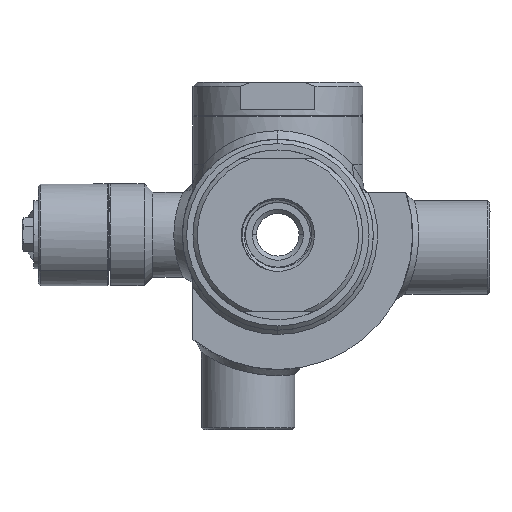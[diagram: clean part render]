
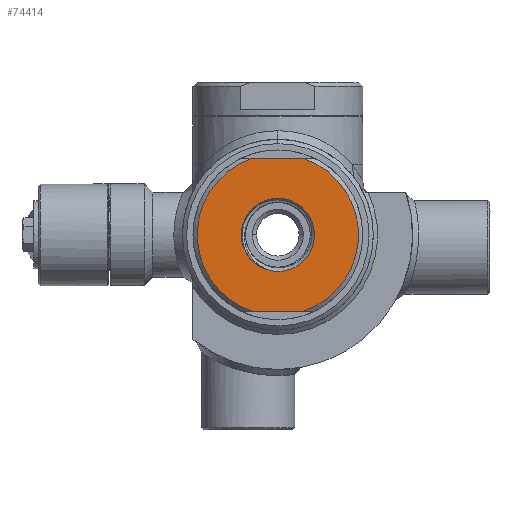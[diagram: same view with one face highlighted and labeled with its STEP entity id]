
A CAD part, left-side view. The second image highlights one B-rep face of the part: STEP entity #74414.
In plain terms, the highlighted planar face has unit normal (-1, 0, 0).
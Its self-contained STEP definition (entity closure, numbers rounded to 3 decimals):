
#13257=CARTESIAN_POINT('',(-36.,0.,0.));
#13258=DIRECTION('',(1.,0.,0.));
#13259=DIRECTION('',(0.,-1.,0.));
#13260=AXIS2_PLACEMENT_3D('',#13257,#13258,#13259);
#13556=CARTESIAN_POINT('',(-36.,0.,0.));
#13557=DIRECTION('',(-1.,0.,0.));
#13558=DIRECTION('',(0.,-1.,0.));
#13559=AXIS2_PLACEMENT_3D('',#13556,#13557,#13558);
#13564=DIRECTION('',(0.,1.,0.));
#13565=VECTOR('',#13564,12.166);
#13566=CARTESIAN_POINT('',(-36.,-6.083,
18.));
#13567=LINE('',#13566,#13565);
#13571=DIRECTION('',(0.,1.,0.));
#13572=VECTOR('',#13571,12.166);
#13573=CARTESIAN_POINT('',(-36.,-6.083,
-18.));
#13574=LINE('',#13573,#13572);
#13578=CARTESIAN_POINT('',(-36.,0.,0.));
#13579=DIRECTION('',(-1.,0.,0.));
#13580=DIRECTION('',(0.,0.32,0.947));
#13581=AXIS2_PLACEMENT_3D('',#13578,#13579,#13580);
#13586=CARTESIAN_POINT('',(-36.,6.083,
-18.));
#13603=CARTESIAN_POINT('',(-36.,-6.083,
-18.));
#13622=CARTESIAN_POINT('',(-36.,0.,0.));
#13623=DIRECTION('',(-1.,0.,0.));
#13624=DIRECTION('',(0.,-0.32,-0.947));
#13625=AXIS2_PLACEMENT_3D('',#13622,#13623,#13624);
#13705=CARTESIAN_POINT('',(-36.,6.083,
18.));
#13731=CARTESIAN_POINT('',(-36.,-6.083,
18.));
#64658=VERTEX_POINT('',#13705);
#64661=VERTEX_POINT('',#13586);
#64664=VERTEX_POINT('',#13603);
#64667=VERTEX_POINT('',#13731);
#64673=CARTESIAN_POINT('',(-36.,-8.625,0.));
#64674=CARTESIAN_POINT('',(-36.,8.625,0.));
#64675=VERTEX_POINT('',#64673);
#64676=VERTEX_POINT('',#64674);
#74395=CARTESIAN_POINT('',(-36.,0.,0.));
#74396=DIRECTION('',(-1.,0.,0.));
#74397=DIRECTION('',(0.,1.,0.));
#74398=AXIS2_PLACEMENT_3D('',#74395,#74396,#74397);
#74399=PLANE('',#74398);
#74401=ORIENTED_EDGE('',*,*,#74400,.F.);
#74403=ORIENTED_EDGE('',*,*,#74402,.F.);
#74405=ORIENTED_EDGE('',*,*,#74404,.F.);
#74407=ORIENTED_EDGE('',*,*,#74406,.T.);
#74408=EDGE_LOOP('',(#74401,#74403,#74405,#74407));
#74409=FACE_OUTER_BOUND('',#74408,.F.);
#74410=ORIENTED_EDGE('',*,*,#74223,.F.);
#74411=ORIENTED_EDGE('',*,*,#74389,.T.);
#74412=EDGE_LOOP('',(#74410,#74411));
#74413=FACE_BOUND('',#74412,.F.);
#74414=ADVANCED_FACE('',(#74409,#74413),#74399,.T.);
#13261=CIRCLE('',#13260,8.625);
#13560=CIRCLE('',#13559,8.625);
#13582=CIRCLE('',#13581,19.);
#13626=CIRCLE('',#13625,19.);
#74223=EDGE_CURVE('',#64675,#64676,#13261,.T.);
#74389=EDGE_CURVE('',#64675,#64676,#13560,.T.);
#74400=EDGE_CURVE('',#64658,#64661,#13582,.T.);
#74402=EDGE_CURVE('',#64667,#64658,#13567,.T.);
#74404=EDGE_CURVE('',#64664,#64667,#13626,.T.);
#74406=EDGE_CURVE('',#64664,#64661,#13574,.T.);
